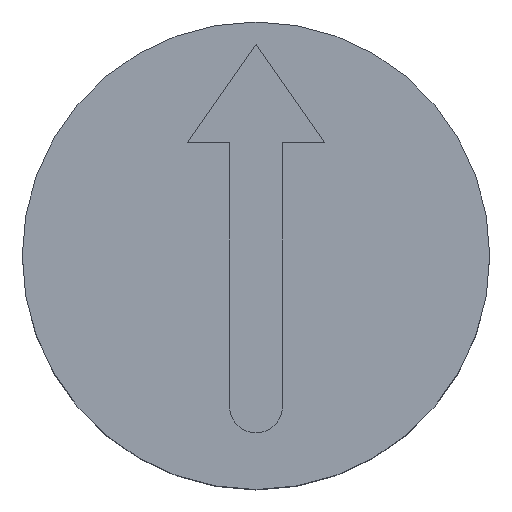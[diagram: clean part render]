
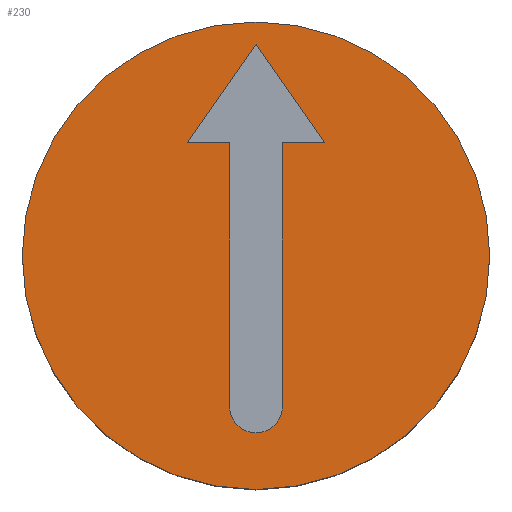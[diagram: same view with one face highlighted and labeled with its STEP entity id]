
A CAD part, top view. The second image highlights one B-rep face of the part: STEP entity #230.
In plain terms, the highlighted planar face has unit normal (0, 0, 1).
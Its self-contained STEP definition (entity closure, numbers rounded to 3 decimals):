
#15=FACE_BOUND('',#55,.T.);
#18=CIRCLE('',#248,0.35);
#23=CIRCLE('',#263,3.1);
#40=FACE_OUTER_BOUND('',#54,.T.);
#54=EDGE_LOOP('',(#198));
#55=EDGE_LOOP('',(#199,#200,#201,#202,#203,#204,#205));
#58=LINE('',#337,#80);
#63=LINE('',#351,#85);
#66=LINE('',#357,#88);
#69=LINE('',#363,#91);
#72=LINE('',#369,#94);
#75=LINE('',#374,#97);
#80=VECTOR('',#271,10.);
#85=VECTOR('',#284,10.);
#88=VECTOR('',#289,10.);
#91=VECTOR('',#294,10.);
#94=VECTOR('',#299,10.);
#97=VECTOR('',#304,10.);
#102=VERTEX_POINT('',#335);
#103=VERTEX_POINT('',#336);
#106=VERTEX_POINT('',#344);
#108=VERTEX_POINT('',#350);
#110=VERTEX_POINT('',#356);
#112=VERTEX_POINT('',#362);
#114=VERTEX_POINT('',#368);
#119=VERTEX_POINT('',#389);
#121=EDGE_CURVE('',#102,#103,#58,.T.);
#125=EDGE_CURVE('',#106,#102,#18,.T.);
#128=EDGE_CURVE('',#108,#106,#63,.T.);
#131=EDGE_CURVE('',#110,#108,#66,.T.);
#134=EDGE_CURVE('',#112,#110,#69,.T.);
#137=EDGE_CURVE('',#114,#112,#72,.T.);
#140=EDGE_CURVE('',#103,#114,#75,.T.);
#147=EDGE_CURVE('',#119,#119,#23,.T.);
#198=ORIENTED_EDGE('',*,*,#147,.T.);
#199=ORIENTED_EDGE('',*,*,#121,.T.);
#200=ORIENTED_EDGE('',*,*,#140,.T.);
#201=ORIENTED_EDGE('',*,*,#137,.T.);
#202=ORIENTED_EDGE('',*,*,#134,.T.);
#203=ORIENTED_EDGE('',*,*,#131,.T.);
#204=ORIENTED_EDGE('',*,*,#128,.T.);
#205=ORIENTED_EDGE('',*,*,#125,.T.);
#216=PLANE('',#265);
#230=ADVANCED_FACE('',(#40,#15),#216,.T.);
#248=AXIS2_PLACEMENT_3D('',#345,#277,#278);
#263=AXIS2_PLACEMENT_3D('',#390,#324,#325);
#265=AXIS2_PLACEMENT_3D('',#394,#329,#330);
#271=DIRECTION('',(0.,1.,0.));
#277=DIRECTION('center_axis',(0.,0.,-1.));
#278=DIRECTION('ref_axis',(-1.,0.,0.));
#284=DIRECTION('',(0.,-1.,0.));
#289=DIRECTION('',(-1.,0.,0.));
#294=DIRECTION('',(0.574,-0.819,0.));
#299=DIRECTION('',(0.574,0.819,0.));
#304=DIRECTION('',(-1.,0.,0.));
#324=DIRECTION('center_axis',(0.,0.,1.));
#325=DIRECTION('ref_axis',(1.,0.,0.));
#329=DIRECTION('center_axis',(0.,0.,1.));
#330=DIRECTION('ref_axis',(1.,0.,0.));
#335=CARTESIAN_POINT('',(-0.35,-2.,3.45));
#336=CARTESIAN_POINT('',(-0.35,1.5,3.45));
#337=CARTESIAN_POINT('',(-0.35,-1.,3.45));
#344=CARTESIAN_POINT('',(0.35,-2.,3.45));
#345=CARTESIAN_POINT('Origin',(0.,-2.,3.45));
#350=CARTESIAN_POINT('',(0.35,1.5,3.45));
#351=CARTESIAN_POINT('',(0.35,0.75,3.45));
#356=CARTESIAN_POINT('',(0.91,1.5,3.45));
#357=CARTESIAN_POINT('',(0.455,1.5,3.45));
#362=CARTESIAN_POINT('',(0.,2.8,3.45));
#363=CARTESIAN_POINT('',(0.658,1.861,3.45));
#368=CARTESIAN_POINT('',(-0.91,1.5,3.45));
#369=CARTESIAN_POINT('',(-1.113,1.211,3.45));
#374=CARTESIAN_POINT('',(-0.175,1.5,3.45));
#389=CARTESIAN_POINT('',(-3.1,0.,3.45));
#390=CARTESIAN_POINT('Origin',(0.,0.,3.45));
#394=CARTESIAN_POINT('Origin',(0.,0.,3.45));
